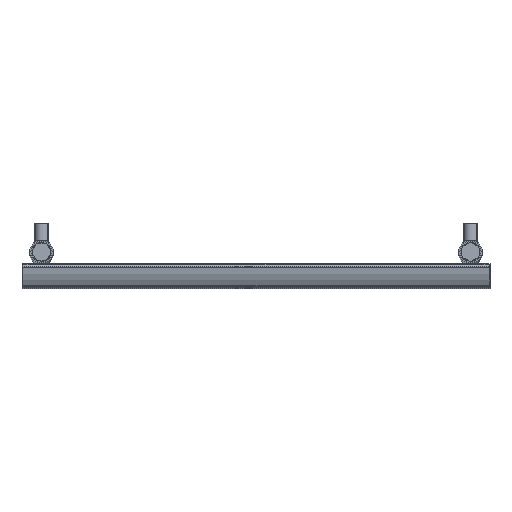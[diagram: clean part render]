
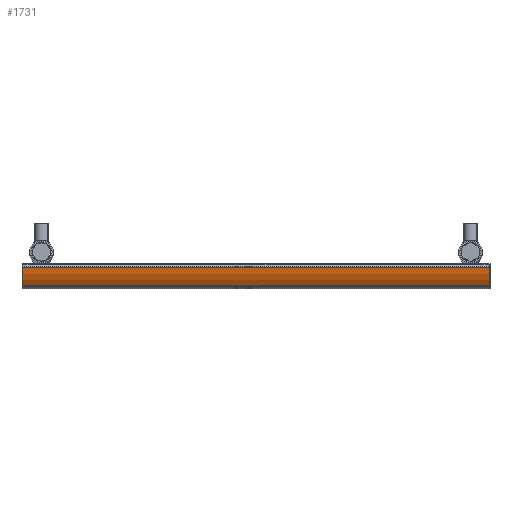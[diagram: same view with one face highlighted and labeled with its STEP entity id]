
A CAD part, top view. The second image highlights one B-rep face of the part: STEP entity #1731.
In plain terms, the highlighted cylindrical face has radius 51.638 mm (diameter 103.277 mm), a partial arc.
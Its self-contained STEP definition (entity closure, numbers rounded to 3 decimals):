
#199=LINE('',#5266,#233);
#200=LINE('',#5269,#234);
#233=VECTOR('',#2124,10.);
#234=VECTOR('',#2127,10.);
#596=FACE_OUTER_BOUND('',#795,.T.);
#795=EDGE_LOOP('',(#1502,#1503,#1504,#1505));
#845=CIRCLE('',#1871,51.638);
#846=CIRCLE('',#1872,51.638);
#1004=VERTEX_POINT('',#5262);
#1005=VERTEX_POINT('',#5263);
#1006=VERTEX_POINT('',#5265);
#1007=VERTEX_POINT('',#5267);
#1179=EDGE_CURVE('',#1004,#1005,#845,.T.);
#1180=EDGE_CURVE('',#1004,#1006,#199,.T.);
#1181=EDGE_CURVE('',#1007,#1006,#846,.T.);
#1182=EDGE_CURVE('',#1005,#1007,#200,.T.);
#1502=ORIENTED_EDGE('',*,*,#1179,.F.);
#1503=ORIENTED_EDGE('',*,*,#1180,.T.);
#1504=ORIENTED_EDGE('',*,*,#1181,.F.);
#1505=ORIENTED_EDGE('',*,*,#1182,.F.);
#1670=CYLINDRICAL_SURFACE('',#1870,51.638);
#1731=ADVANCED_FACE('',(#596),#1670,.T.);
#1870=AXIS2_PLACEMENT_3D('',#5261,#2120,#2121);
#1871=AXIS2_PLACEMENT_3D('',#5264,#2122,#2123);
#1872=AXIS2_PLACEMENT_3D('',#5268,#2125,#2126);
#2120=DIRECTION('center_axis',(0.,0.,-1.));
#2121=DIRECTION('ref_axis',(0.837,-0.547,0.));
#2122=DIRECTION('center_axis',(0.,0.,1.));
#2123=DIRECTION('ref_axis',(0.837,-0.547,0.));
#2124=DIRECTION('',(0.,0.,-1.));
#2125=DIRECTION('center_axis',(0.,0.,-1.));
#2126=DIRECTION('ref_axis',(0.837,-0.547,0.));
#2127=DIRECTION('',(0.,0.,-1.));
#5261=CARTESIAN_POINT('Origin',(-41.424,-0.617,0.));
#5262=CARTESIAN_POINT('',(1.804,-28.863,0.));
#5263=CARTESIAN_POINT('',(10.063,-4.573,0.));
#5264=CARTESIAN_POINT('Origin',(-41.424,-0.617,0.));
#5265=CARTESIAN_POINT('',(1.804,-28.863,-600.));
#5266=CARTESIAN_POINT('',(1.804,-28.863,0.));
#5267=CARTESIAN_POINT('',(10.063,-4.573,-600.));
#5268=CARTESIAN_POINT('Origin',(-41.424,-0.617,-600.));
#5269=CARTESIAN_POINT('',(10.063,-4.573,0.));
